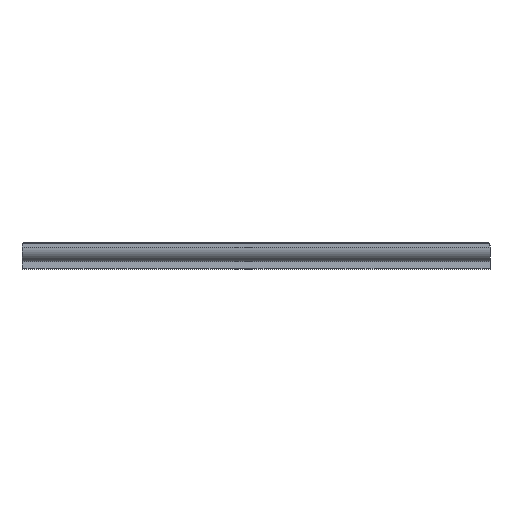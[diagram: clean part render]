
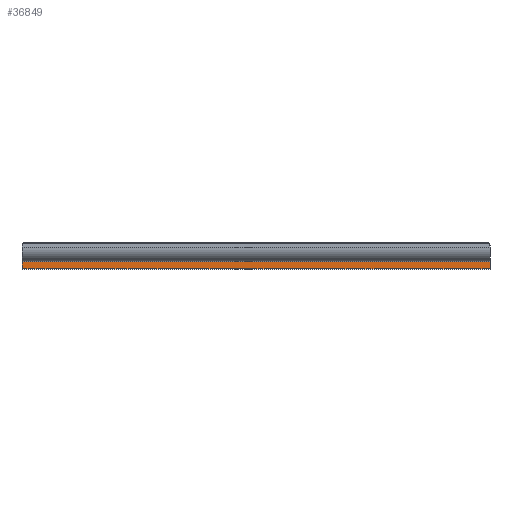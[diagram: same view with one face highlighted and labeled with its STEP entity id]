
A CAD part, left-side view. The second image highlights one B-rep face of the part: STEP entity #36849.
In plain terms, the highlighted planar face has unit normal (-1, 0, 0) as drawn and (1, 0, 0) by its records, which use the part's own axes.
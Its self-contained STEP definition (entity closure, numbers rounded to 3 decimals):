
#621 = CARTESIAN_POINT ( 'NONE',  ( 74.25, 13.25, -1800. ) ) ;
#897 = LINE ( 'NONE', #20664, #35481 ) ;
#2764 = PLANE ( 'NONE',  #37251 ) ;
#3393 = FACE_OUTER_BOUND ( 'NONE', #9098, .T. ) ;
#3419 = ORIENTED_EDGE ( 'NONE', *, *, #16468, .T. ) ;
#3578 = ORIENTED_EDGE ( 'NONE', *, *, #36930, .F. ) ;
#4696 = LINE ( 'NONE', #33514, #31162 ) ;
#7581 = VERTEX_POINT ( 'NONE', #11800 ) ;
#7696 = VECTOR ( 'NONE', #16206, 1000. ) ;
#7880 = LINE ( 'NONE', #39240, #9016 ) ;
#8673 = EDGE_CURVE ( 'NONE', #15261, #26246, #897, .T. ) ;
#9016 = VECTOR ( 'NONE', #39857, 1000. ) ;
#9098 = EDGE_LOOP ( 'NONE', ( #3578, #30454, #3419, #35793 ) ) ;
#10611 = DIRECTION ( 'NONE',  ( 0., 0., 1. ) ) ;
#11800 = CARTESIAN_POINT ( 'NONE',  ( 74.25, -13.258, 0. ) ) ;
#14119 = CARTESIAN_POINT ( 'NONE',  ( 74.25, 13.25, 0. ) ) ;
#14268 = VERTEX_POINT ( 'NONE', #17510 ) ;
#15261 = VERTEX_POINT ( 'NONE', #621 ) ;
#16206 = DIRECTION ( 'NONE',  ( 0., 1., 0. ) ) ;
#16468 = EDGE_CURVE ( 'NONE', #14268, #15261, #4696, .T. ) ;
#17510 = CARTESIAN_POINT ( 'NONE',  ( 74.25, -13.258, -1800. ) ) ;
#20664 = CARTESIAN_POINT ( 'NONE',  ( 74.25, 13.25, -1800. ) ) ;
#21822 = EDGE_CURVE ( 'NONE', #14268, #7581, #7880, .T. ) ;
#25656 = DIRECTION ( 'NONE',  ( -1., 0., 0. ) ) ;
#25865 = CARTESIAN_POINT ( 'NONE',  ( 74.25, -13.258, -1800. ) ) ;
#26246 = VERTEX_POINT ( 'NONE', #14119 ) ;
#28827 = LINE ( 'NONE', #32391, #7696 ) ;
#29930 = DIRECTION ( 'NONE',  ( 0., 1., 0. ) ) ;
#30454 = ORIENTED_EDGE ( 'NONE', *, *, #21822, .F. ) ;
#31162 = VECTOR ( 'NONE', #29930, 1000. ) ;
#32391 = CARTESIAN_POINT ( 'NONE',  ( 74.25, -13.258, 0. ) ) ;
#33514 = CARTESIAN_POINT ( 'NONE',  ( 74.25, -13.258, -1800. ) ) ;
#34754 = DIRECTION ( 'NONE',  ( 0., 1., 0. ) ) ;
#35481 = VECTOR ( 'NONE', #10611, 1000. ) ;
#35793 = ORIENTED_EDGE ( 'NONE', *, *, #8673, .T. ) ;
#36849 = ADVANCED_FACE ( 'NONE', ( #3393 ), #2764, .F. ) ;
#36930 = EDGE_CURVE ( 'NONE', #7581, #26246, #28827, .T. ) ;
#37251 = AXIS2_PLACEMENT_3D ( 'NONE', #25865, #25656, #34754 ) ;
#39240 = CARTESIAN_POINT ( 'NONE',  ( 74.25, -13.258, -1800. ) ) ;
#39857 = DIRECTION ( 'NONE',  ( 0., 0., 1. ) ) ;
